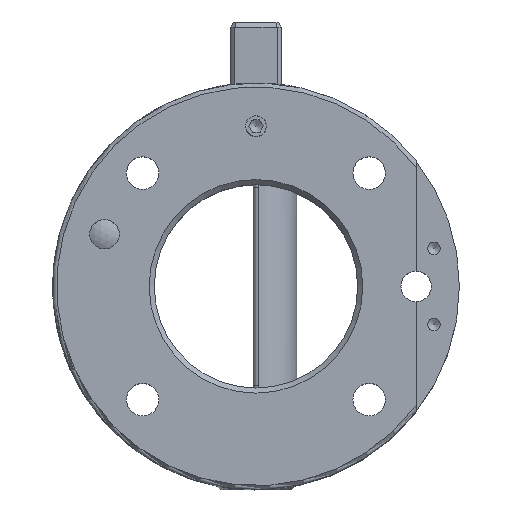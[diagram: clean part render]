
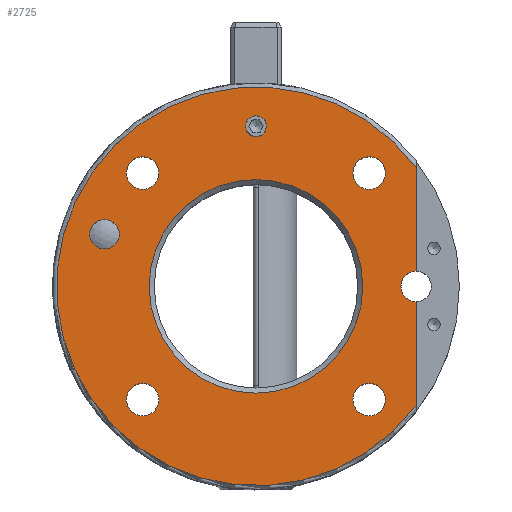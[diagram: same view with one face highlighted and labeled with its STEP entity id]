
A CAD part, top view. The second image highlights one B-rep face of the part: STEP entity #2725.
In plain terms, the highlighted planar face has unit normal (0, 0, 1).
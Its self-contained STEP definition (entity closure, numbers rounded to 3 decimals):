
#511=CARTESIAN_POINT('',(2.067,31.5,0.0));
#512=VERTEX_POINT('',#511);
#513=CARTESIAN_POINT('',(0.0,31.5,0.0));
#514=DIRECTION('',(0.0,0.0,-1.0));
#515=DIRECTION('',(1.0,0.0,0.0));
#516=AXIS2_PLACEMENT_3D('',#513,#514,#515);
#517=CIRCLE('',#516,2.067);
#518=EDGE_CURVE('',#512,#512,#517,.T.);
#2409=CARTESIAN_POINT('',(-26.884,10.255,0.0));
#2410=VERTEX_POINT('',#2409);
#2411=CARTESIAN_POINT('',(-29.784,10.255,0.0));
#2412=DIRECTION('',(0.0,0.0,-1.0));
#2413=DIRECTION('',(1.0,0.0,0.0));
#2414=AXIS2_PLACEMENT_3D('',#2411,#2412,#2413);
#2415=CIRCLE('',#2414,2.9);
#2416=EDGE_CURVE('',#2410,#2410,#2415,.T.);
#2592=CARTESIAN_POINT('',(31.5,23.332,0.0));
#2593=VERTEX_POINT('',#2592);
#2608=CARTESIAN_POINT('',(31.5,-23.332,0.0));
#2609=VERTEX_POINT('',#2608);
#2623=CARTESIAN_POINT('',(0.0,0.0,0.0));
#2624=DIRECTION('',(0.0,0.0,-1.0));
#2625=DIRECTION('',(-1.0,0.0,0.0));
#2626=AXIS2_PLACEMENT_3D('',#2623,#2624,#2625);
#2627=CIRCLE('',#2626,39.2);
#2628=EDGE_CURVE('',#2609,#2593,#2627,.T.);
#2633=CARTESIAN_POINT('',(0.0,0.0,0.0));
#2634=DIRECTION('',(0.0,0.0,-1.0));
#2635=DIRECTION('',(-1.0,0.0,0.0));
#2636=AXIS2_PLACEMENT_3D('',#2633,#2634,#2635);
#2637=PLANE('',#2636);
#2638=ORIENTED_EDGE('',*,*,#2628,.F.);
#2639=CARTESIAN_POINT('',(31.5,-3.,0.0));
#2640=VERTEX_POINT('',#2639);
#2641=CARTESIAN_POINT('',(31.5,-23.332,0.0));
#2642=DIRECTION('',(0.0,1.0,0.0));
#2643=VECTOR('',#2642,20.332);
#2644=LINE('',#2641,#2643);
#2645=EDGE_CURVE('',#2609,#2640,#2644,.T.);
#2646=ORIENTED_EDGE('',*,*,#2645,.T.);
#2647=CARTESIAN_POINT('',(31.5,3.,0.0));
#2648=VERTEX_POINT('',#2647);
#2649=CARTESIAN_POINT('',(31.5,0.0,0.0));
#2650=DIRECTION('',(0.0,0.0,-1.0));
#2651=DIRECTION('',(1.0,0.0,0.0));
#2652=AXIS2_PLACEMENT_3D('',#2649,#2650,#2651);
#2653=CIRCLE('',#2652,3.);
#2654=EDGE_CURVE('',#2640,#2648,#2653,.T.);
#2655=ORIENTED_EDGE('',*,*,#2654,.T.);
#2656=CARTESIAN_POINT('',(31.5,3.,0.0));
#2657=DIRECTION('',(0.0,1.0,0.0));
#2658=VECTOR('',#2657,20.332);
#2659=LINE('',#2656,#2658);
#2660=EDGE_CURVE('',#2648,#2593,#2659,.T.);
#2661=ORIENTED_EDGE('',*,*,#2660,.T.);
#2662=EDGE_LOOP('',(#2638,#2646,#2655,#2661));
#2663=FACE_OUTER_BOUND('',#2662,.T.);
#2664=ORIENTED_EDGE('',*,*,#2416,.T.);
#2665=EDGE_LOOP('',(#2664));
#2666=FACE_BOUND('',#2665,.T.);
#2667=CARTESIAN_POINT('',(21.0,0.,0.0));
#2668=VERTEX_POINT('',#2667);
#2669=CARTESIAN_POINT('',(0.0,0.0,0.0));
#2670=DIRECTION('',(0.0,0.0,1.0));
#2671=DIRECTION('',(-1.0,0.0,0.0));
#2672=AXIS2_PLACEMENT_3D('',#2669,#2670,#2671);
#2673=CIRCLE('',#2672,21.0);
#2674=EDGE_CURVE('',#2668,#2668,#2673,.T.);
#2675=ORIENTED_EDGE('',*,*,#2674,.F.);
#2676=EDGE_LOOP('',(#2675));
#2677=FACE_BOUND('',#2676,.T.);
#2678=ORIENTED_EDGE('',*,*,#518,.T.);
#2679=EDGE_LOOP('',(#2678));
#2680=FACE_BOUND('',#2679,.T.);
#2681=CARTESIAN_POINT('',(25.474,-22.274,0.0));
#2682=VERTEX_POINT('',#2681);
#2683=CARTESIAN_POINT('',(22.274,-22.274,0.0));
#2684=DIRECTION('',(0.0,0.0,-1.0));
#2685=DIRECTION('',(-1.0,0.0,0.0));
#2686=AXIS2_PLACEMENT_3D('',#2683,#2684,#2685);
#2687=CIRCLE('',#2686,3.2);
#2688=EDGE_CURVE('',#2682,#2682,#2687,.T.);
#2689=ORIENTED_EDGE('',*,*,#2688,.T.);
#2690=EDGE_LOOP('',(#2689));
#2691=FACE_BOUND('',#2690,.T.);
#2692=CARTESIAN_POINT('',(-19.074,-22.274,0.0));
#2693=VERTEX_POINT('',#2692);
#2694=CARTESIAN_POINT('',(-22.274,-22.274,0.0));
#2695=DIRECTION('',(0.0,0.0,-1.0));
#2696=DIRECTION('',(-1.0,0.0,0.0));
#2697=AXIS2_PLACEMENT_3D('',#2694,#2695,#2696);
#2698=CIRCLE('',#2697,3.2);
#2699=EDGE_CURVE('',#2693,#2693,#2698,.T.);
#2700=ORIENTED_EDGE('',*,*,#2699,.T.);
#2701=EDGE_LOOP('',(#2700));
#2702=FACE_BOUND('',#2701,.T.);
#2703=CARTESIAN_POINT('',(-19.074,22.274,0.0));
#2704=VERTEX_POINT('',#2703);
#2705=CARTESIAN_POINT('',(-22.274,22.274,0.0));
#2706=DIRECTION('',(0.0,0.0,-1.0));
#2707=DIRECTION('',(-1.0,0.0,0.0));
#2708=AXIS2_PLACEMENT_3D('',#2705,#2706,#2707);
#2709=CIRCLE('',#2708,3.2);
#2710=EDGE_CURVE('',#2704,#2704,#2709,.T.);
#2711=ORIENTED_EDGE('',*,*,#2710,.T.);
#2712=EDGE_LOOP('',(#2711));
#2713=FACE_BOUND('',#2712,.T.);
#2714=CARTESIAN_POINT('',(25.474,22.274,0.0));
#2715=VERTEX_POINT('',#2714);
#2716=CARTESIAN_POINT('',(22.274,22.274,0.0));
#2717=DIRECTION('',(0.0,0.0,-1.0));
#2718=DIRECTION('',(-1.0,0.0,0.0));
#2719=AXIS2_PLACEMENT_3D('',#2716,#2717,#2718);
#2720=CIRCLE('',#2719,3.2);
#2721=EDGE_CURVE('',#2715,#2715,#2720,.T.);
#2722=ORIENTED_EDGE('',*,*,#2721,.T.);
#2723=EDGE_LOOP('',(#2722));
#2724=FACE_BOUND('',#2723,.T.);
#2725=ADVANCED_FACE('',(#2663,#2666,#2677,#2680,#2691,#2702,#2713,#2724),#2637,.F.);
